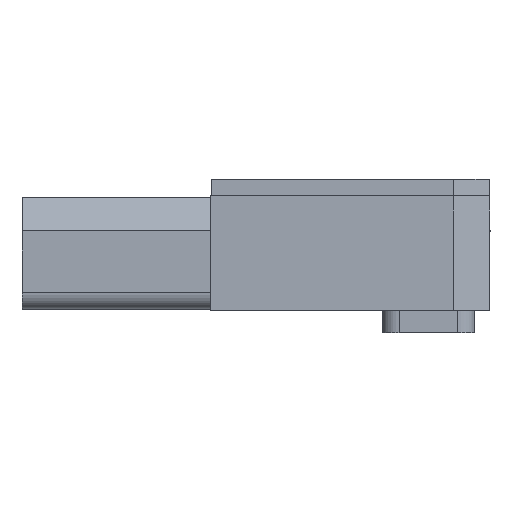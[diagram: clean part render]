
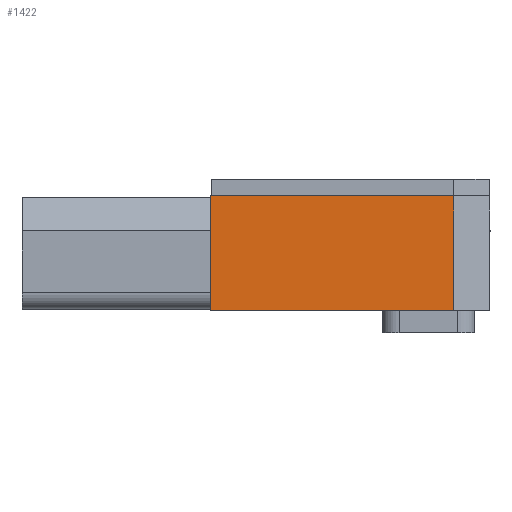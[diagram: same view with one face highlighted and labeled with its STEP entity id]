
A CAD part, front view. The second image highlights one B-rep face of the part: STEP entity #1422.
In plain terms, the highlighted planar face has unit normal (0, -1, 0).
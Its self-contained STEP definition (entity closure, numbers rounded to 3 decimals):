
#1422=ADVANCED_FACE('',(#3357),#3358,.T.);
#3357=FACE_OUTER_BOUND('',#6060,.T.);
#3358=PLANE('',#6061);
#6060=EDGE_LOOP('',(#10431,#10432,#10433,#10434));
#6061=AXIS2_PLACEMENT_3D('',#10435,#10436,#10437);
#10431=ORIENTED_EDGE('',*,*,#16654,.T.);
#10432=ORIENTED_EDGE('',*,*,#16655,.T.);
#10433=ORIENTED_EDGE('',*,*,#15579,.F.);
#10434=ORIENTED_EDGE('',*,*,#15879,.F.);
#10435=CARTESIAN_POINT('',(82.679,0.0,0.));
#10436=DIRECTION('',(0.,-1.0,0.));
#10437=DIRECTION('',(0.0,0.,-1.0));
#15579=EDGE_CURVE('',#18358,#18360,#18361,.T.);
#15879=EDGE_CURVE('',#18889,#18358,#18891,.T.);
#16654=EDGE_CURVE('',#18889,#20053,#20054,.T.);
#16655=EDGE_CURVE('',#20053,#18360,#20055,.T.);
#18358=VERTEX_POINT('',#22498);
#18360=VERTEX_POINT('',#22501);
#18361=LINE('',#22502,#22503);
#18889=VERTEX_POINT('',#23328);
#18891=LINE('',#23331,#23332);
#20053=VERTEX_POINT('',#25324);
#20054=LINE('',#25325,#25326);
#20055=LINE('',#25327,#25328);
#22498=CARTESIAN_POINT('',(0.0,0.0,41.0));
#22501=CARTESIAN_POINT('',(87.,0.,41.0));
#22502=CARTESIAN_POINT('',(82.679,0.0,41.0));
#22503=VECTOR('',#29256,1.0);
#23328=CARTESIAN_POINT('',(0.0,0.0,0.));
#23331=CARTESIAN_POINT('',(0.0,0.0,0.));
#23332=VECTOR('',#29469,1.0);
#25324=CARTESIAN_POINT('',(87.,0.0,0.));
#25325=CARTESIAN_POINT('',(82.679,0.0,0.));
#25326=VECTOR('',#29891,1.0);
#25327=CARTESIAN_POINT('',(87.,0.0,0.));
#25328=VECTOR('',#29892,1.0);
#29256=DIRECTION('',(1.0,0.0,0.));
#29469=DIRECTION('',(0.,0.,1.0));
#29891=DIRECTION('',(1.0,0.0,0.));
#29892=DIRECTION('',(0.,0.,1.0));
